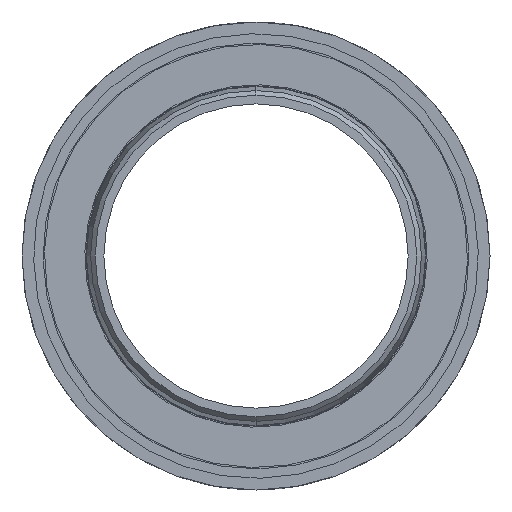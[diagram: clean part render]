
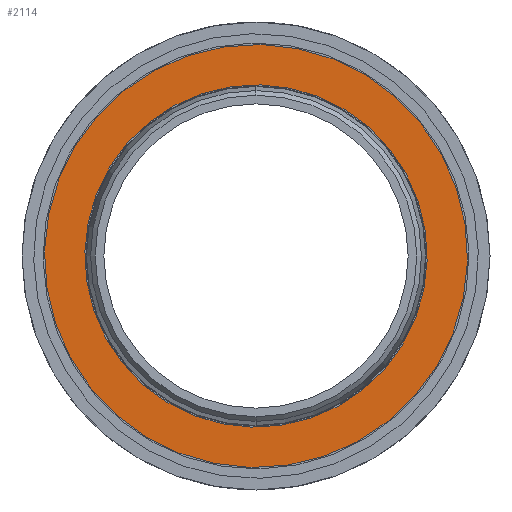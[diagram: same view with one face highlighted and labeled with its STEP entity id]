
A CAD part, left-side view. The second image highlights one B-rep face of the part: STEP entity #2114.
In plain terms, the highlighted planar face has unit normal (-1, 0, 0).
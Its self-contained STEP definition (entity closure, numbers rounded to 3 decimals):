
#250 = CARTESIAN_POINT ( 'NONE',  ( -123., 0., 0. ) ) ;
#251 = DIRECTION ( 'NONE',  ( -1., 0., 0. ) ) ;
#252 = DIRECTION ( 'NONE',  ( 0., -0.024, 1. ) ) ;
#653 = CARTESIAN_POINT ( 'NONE',  ( -123., 0., 0. ) ) ;
#654 = DIRECTION ( 'NONE',  ( -1., 0., 0. ) ) ;
#655 = DIRECTION ( 'NONE',  ( 0., -0.024, 1. ) ) ;
#663 = CARTESIAN_POINT ( 'NONE',  ( -123., 0., 0. ) ) ;
#664 = DIRECTION ( 'NONE',  ( -1., 0., 0. ) ) ;
#665 = DIRECTION ( 'NONE',  ( 0., -0.024, 1. ) ) ;
#670 = CARTESIAN_POINT ( 'NONE',  ( -123., 0., 0. ) ) ;
#671 = DIRECTION ( 'NONE',  ( -1., 0., 0. ) ) ;
#672 = DIRECTION ( 'NONE',  ( 0., -0.024, 1. ) ) ;
#673 = CARTESIAN_POINT ( 'NONE',  ( -123., 0., 0. ) ) ;
#674 = DIRECTION ( 'NONE',  ( -1., 0., 0. ) ) ;
#675 = DIRECTION ( 'NONE',  ( 0., -0.024, 1. ) ) ;
#745 = CARTESIAN_POINT ( 'NONE',  ( -123., 0.867, -36.565 ) ) ;
#756 = CARTESIAN_POINT ( 'NONE',  ( -123., -1.071, 45.187 ) ) ;
#865 = CARTESIAN_POINT ( 'NONE',  ( -123., 1.071, -45.187 ) ) ;
#903 = CARTESIAN_POINT ( 'NONE',  ( -123., -0.867, 36.565 ) ) ;
#1384 = VERTEX_POINT ( 'NONE', #865 ) ;
#1416 = VERTEX_POINT ( 'NONE', #903 ) ;
#1479 = ORIENTED_EDGE ( 'NONE', *, *, #1705, .T. ) ;
#1480 = ORIENTED_EDGE ( 'NONE', *, *, #1701, .T. ) ;
#1481 = ORIENTED_EDGE ( 'NONE', *, *, #1698, .F. ) ;
#1482 = ORIENTED_EDGE ( 'NONE', *, *, #1706, .F. ) ;
#1698 = EDGE_CURVE ( 'NONE', #2173, #1416, #1923, .T. ) ;
#1701 = EDGE_CURVE ( 'NONE', #2179, #1384, #1927, .T. ) ;
#1705 = EDGE_CURVE ( 'NONE', #1384, #2179, #1931, .T. ) ;
#1706 = EDGE_CURVE ( 'NONE', #1416, #2173, #1936, .T. ) ;
#1817 = AXIS2_PLACEMENT_3D ( 'NONE', #250, #251, #252 ) ;
#1923 = CIRCLE ( 'NONE', #2426, 36.575 ) ;
#1927 = CIRCLE ( 'NONE', #2428, 45.2 ) ;
#1931 = CIRCLE ( 'NONE', #2430, 45.2 ) ;
#1936 = CIRCLE ( 'NONE', #2431, 36.575 ) ;
#2015 = FACE_OUTER_BOUND ( 'NONE', #2148, .T. ) ;
#2019 = FACE_BOUND ( 'NONE', #2150, .T. ) ;
#2114 = ADVANCED_FACE ( 'NONE', ( #2015, #2019 ), #2388, .T. ) ;
#2148 = EDGE_LOOP ( 'NONE', ( #1479, #1480 ) ) ;
#2150 = EDGE_LOOP ( 'NONE', ( #1481, #1482 ) ) ;
#2173 = VERTEX_POINT ( 'NONE', #745 ) ;
#2179 = VERTEX_POINT ( 'NONE', #756 ) ;
#2388 = PLANE ( 'NONE',  #1817 ) ;
#2426 = AXIS2_PLACEMENT_3D ( 'NONE', #653, #654, #655 ) ;
#2428 = AXIS2_PLACEMENT_3D ( 'NONE', #663, #664, #665 ) ;
#2430 = AXIS2_PLACEMENT_3D ( 'NONE', #670, #671, #672 ) ;
#2431 = AXIS2_PLACEMENT_3D ( 'NONE', #673, #674, #675 ) ;
